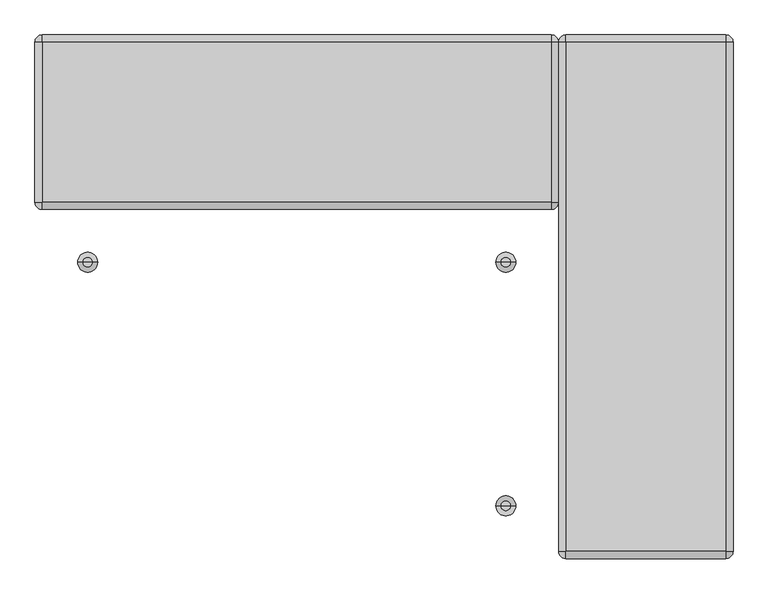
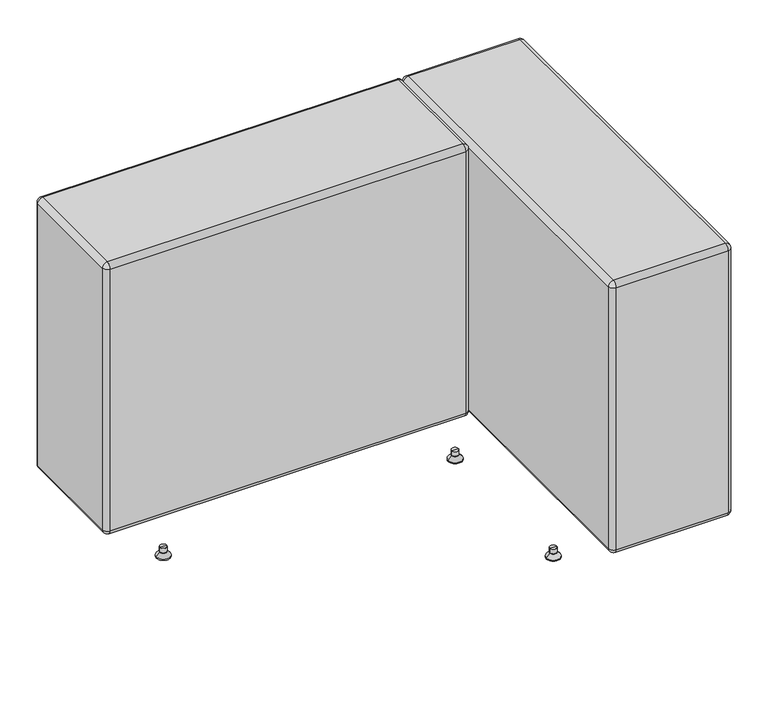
"""IFC4 building model written with IfcOpenShell, lengths in millimetres: furniture geometry, KFI Studios - Conversa : 24”x36” Seat - Left Corner."""

from ifc_helpers import new_model, si_unit, point, frame, origin, place, context, project, spatial, polyline, circle_curve, ellipse_curve, trimmed, source, transform, mapped, element, save
from ifc_brep_helpers import plane_surface, cylinder_surface, revolved_surface, advanced_brep


def furniture_b39dd79e(model_context):
    return source(origin(), model_context, "Body", "AdvancedBrep", [
        advanced_brep(
        [(678.1895895, 517.525, 25.4), (669.925, 517.525, 25.4), (661.6604105, 517.525, 25.4), (678.1895895, 517.525, 14.2843611), (661.6604105, 517.525, 14.2843611), (676.5876354, 517.525, 14.2843611), (663.2623646, 517.525, 14.2843611), (676.5876354, 517.525, 12.7064551), (663.2623646, 517.525, 12.7064551), (678.1890671, 517.525, 12.7064551), (661.6609329, 517.525, 12.7064551), (687.3741215, 517.525, 3.1950529), (652.4758785, 517.525, 3.1950529), (687.3741215, 517.525, 0.0), (652.4758785, 517.525, 0.0), (669.925, 517.525, 0.0)],
        [
            (0, 1),
            (1, 2),
            (2, 0, circle_curve(frame((669.925, 517.525, 25.4), z_axis=(0.0, 0.0, 1.0), x_axis=(-1.0, 0.0, 0.0)), 8.2645895)),
            (0, 2, circle_curve(frame((669.925, 517.525, 25.4), z_axis=(0.0, 0.0, 1.0), x_axis=(-1.0, 0.0, 0.0)), 8.2645895)),
            (3, 0),
            (2, 4),
            (4, 3, circle_curve(frame((669.925, 517.525, 14.2843611), z_axis=(0.0, 0.0, 1.0), x_axis=(-1.0, 0.0, 0.0)), 8.2645895)),
            (3, 4, circle_curve(frame((669.925, 517.525, 14.2843611), z_axis=(0.0, 0.0, 1.0), x_axis=(-1.0, 0.0, 0.0)), 8.2645895)),
            (5, 3),
            (4, 6),
            (6, 5, circle_curve(frame((669.925, 517.525, 14.2843611), z_axis=(0.0, 0.0, 1.0), x_axis=(-1.0, 0.0, 0.0)), 6.6626354)),
            (5, 6, circle_curve(frame((669.925, 517.525, 14.2843611), z_axis=(0.0, 0.0, 1.0), x_axis=(-1.0, 0.0, 0.0)), 6.6626354)),
            (7, 5),
            (6, 8),
            (8, 7, circle_curve(frame((669.925, 517.525, 12.7064551), z_axis=(0.0, 0.0, 1.0), x_axis=(-1.0, 0.0, 0.0)), 6.6626354)),
            (7, 8, circle_curve(frame((669.925, 517.525, 12.7064551), z_axis=(0.0, 0.0, 1.0), x_axis=(-1.0, 0.0, 0.0)), 6.6626354)),
            (9, 7),
            (8, 10),
            (10, 9, circle_curve(frame((669.925, 517.525, 12.7064551), z_axis=(0.0, 0.0, 1.0), x_axis=(-1.0, 0.0, 0.0)), 8.2640671)),
            (9, 10, circle_curve(frame((669.925, 517.525, 12.7064551), z_axis=(0.0, 0.0, 1.0), x_axis=(-1.0, 0.0, 0.0)), 8.2640671)),
            (11, 9),
            (10, 12),
            (12, 11, circle_curve(frame((669.925, 517.525, 3.1950529), z_axis=(0.0, 0.0, 1.0), x_axis=(-1.0, 0.0, 0.0)), 17.4491215)),
            (11, 12, circle_curve(frame((669.925, 517.525, 3.1950529), z_axis=(0.0, 0.0, 1.0), x_axis=(-1.0, 0.0, 0.0)), 17.4491215)),
            (13, 11),
            (12, 14),
            (14, 13, circle_curve(frame((669.925, 517.525, 0.0), z_axis=(0.0, 0.0, 1.0), x_axis=(-1.0, 0.0, 0.0)), 17.4491215)),
            (13, 14, circle_curve(frame((669.925, 517.525, 0.0), z_axis=(0.0, 0.0, 1.0), x_axis=(-1.0, 0.0, 0.0)), 17.4491215)),
            (15, 13),
            (14, 15),
        ],
        [
            plane_surface(frame((669.925, 517.525, 25.4), z_axis=(0.0, 0.0, 1.0), x_axis=(-1.0, 0.0, 0.0))),
            cylinder_surface(frame((669.925, 517.525, 33.820929), z_axis=(0.0, 0.0, -1.0), x_axis=(-1.0, 0.0, 0.0)), 8.2645895),
            plane_surface(frame((669.925, 517.525, 14.2843611), z_axis=(0.0, 0.0, -1.0), x_axis=(-1.0, 0.0, 0.0))),
            cylinder_surface(frame((669.925, 517.525, 33.820929), z_axis=(0.0, 0.0, -1.0), x_axis=(-1.0, 0.0, 0.0)), 6.6626354),
            plane_surface(frame((669.925, 517.525, 12.7064551), z_axis=(0.0, 0.0, 1.0), x_axis=(-1.0, 0.0, 0.0))),
            revolved_surface(polyline([(661.6609329, 517.525, 12.7064551), (652.4758785, 517.525, 3.1950529)]), (669.925, 517.525, 33.820929), (0.0, 0.0, -1.0)),
            cylinder_surface(frame((669.925, 517.525, 33.820929), z_axis=(0.0, 0.0, -1.0), x_axis=(-1.0, 0.0, 0.0)), 17.4491215),
            plane_surface(frame((669.925, 517.525, 0.0), z_axis=(0.0, 0.0, -1.0), x_axis=(-1.0, 0.0, 0.0))),
        ],
        [
            (0, [[1, 2, 3]]),
            (0, [[-2, -1, 4]]),
            (1, [[5, -3, 6, 7]]),
            (1, [[-6, -4, -5, 8]]),
            (2, [[9, -7, 10, 11]]),
            (2, [[-10, -8, -9, 12]]),
            (3, [[13, -11, 14, 15]]),
            (3, [[-14, -12, -13, 16]]),
            (4, [[17, -15, 18, 19]]),
            (4, [[-18, -16, -17, 20]]),
            (5, [[21, -19, 22, 23]]),
            (5, [[-22, -20, -21, 24]]),
            (6, [[25, -23, 26, 27]]),
            (6, [[-26, -24, -25, 28]]),
            (7, [[29, -27, 30]]),
            (7, [[-30, -28, -29]]),
        ],
    ),
        advanced_brep(
        [(678.1895895, -212.725, 25.4), (661.6604105, -212.725, 25.4), (669.925, -212.725, 25.4), (678.1895895, -212.725, 14.2843611), (661.6604105, -212.725, 14.2843611), (676.5876354, -212.725, 14.2843611), (663.2623646, -212.725, 14.2843611), (676.5876354, -212.725, 12.7064551), (663.2623646, -212.725, 12.7064551), (678.1890671, -212.725, 12.7064551), (661.6609329, -212.725, 12.7064551), (687.3741215, -212.725, 3.1950529), (652.4758785, -212.725, 3.1950529), (687.3741215, -212.725, 0.0), (652.4758785, -212.725, 0.0), (669.925, -212.725, 0.0)],
        [
            (0, 1, circle_curve(frame((669.925, -212.725, 25.4), z_axis=(0.0, 0.0, 1.0), x_axis=(-1.0, 0.0, 0.0)), 8.2645895)),
            (1, 2),
            (2, 0),
            (1, 0, circle_curve(frame((669.925, -212.725, 25.4), z_axis=(0.0, 0.0, 1.0), x_axis=(-1.0, 0.0, 0.0)), 8.2645895)),
            (3, 4, circle_curve(frame((669.925, -212.725, 14.2843611), z_axis=(0.0, 0.0, 1.0), x_axis=(-1.0, 0.0, 0.0)), 8.2645895)),
            (4, 1),
            (0, 3),
            (4, 3, circle_curve(frame((669.925, -212.725, 14.2843611), z_axis=(0.0, 0.0, 1.0), x_axis=(-1.0, 0.0, 0.0)), 8.2645895)),
            (5, 6, circle_curve(frame((669.925, -212.725, 14.2843611), z_axis=(0.0, 0.0, 1.0), x_axis=(-1.0, 0.0, 0.0)), 6.6626354)),
            (6, 4),
            (3, 5),
            (6, 5, circle_curve(frame((669.925, -212.725, 14.2843611), z_axis=(0.0, 0.0, 1.0), x_axis=(-1.0, 0.0, 0.0)), 6.6626354)),
            (7, 8, circle_curve(frame((669.925, -212.725, 12.7064551), z_axis=(0.0, 0.0, 1.0), x_axis=(-1.0, 0.0, 0.0)), 6.6626354)),
            (8, 6),
            (5, 7),
            (8, 7, circle_curve(frame((669.925, -212.725, 12.7064551), z_axis=(0.0, 0.0, 1.0), x_axis=(-1.0, 0.0, 0.0)), 6.6626354)),
            (9, 10, circle_curve(frame((669.925, -212.725, 12.7064551), z_axis=(0.0, 0.0, 1.0), x_axis=(-1.0, 0.0, 0.0)), 8.2640671)),
            (10, 8),
            (7, 9),
            (10, 9, circle_curve(frame((669.925, -212.725, 12.7064551), z_axis=(0.0, 0.0, 1.0), x_axis=(-1.0, 0.0, 0.0)), 8.2640671)),
            (11, 12, circle_curve(frame((669.925, -212.725, 3.1950529), z_axis=(0.0, 0.0, 1.0), x_axis=(-1.0, 0.0, 0.0)), 17.4491215)),
            (12, 10),
            (9, 11),
            (12, 11, circle_curve(frame((669.925, -212.725, 3.1950529), z_axis=(0.0, 0.0, 1.0), x_axis=(-1.0, 0.0, 0.0)), 17.4491215)),
            (13, 14, circle_curve(frame((669.925, -212.725, 0.0), z_axis=(0.0, 0.0, 1.0), x_axis=(-1.0, 0.0, 0.0)), 17.4491215)),
            (14, 12),
            (11, 13),
            (14, 13, circle_curve(frame((669.925, -212.725, 0.0), z_axis=(0.0, 0.0, 1.0), x_axis=(-1.0, 0.0, 0.0)), 17.4491215)),
            (15, 14),
            (13, 15),
        ],
        [
            plane_surface(frame((669.925, -212.725, 25.4), z_axis=(0.0, 0.0, 1.0), x_axis=(-1.0, 0.0, 0.0))),
            cylinder_surface(frame((669.925, -212.725, 33.820929), z_axis=(0.0, 0.0, -1.0), x_axis=(-1.0, 0.0, 0.0)), 8.2645895),
            plane_surface(frame((669.925, -212.725, 14.2843611), z_axis=(0.0, 0.0, -1.0), x_axis=(-1.0, 0.0, 0.0))),
            cylinder_surface(frame((669.925, -212.725, 33.820929), z_axis=(0.0, 0.0, -1.0), x_axis=(-1.0, 0.0, 0.0)), 6.6626354),
            plane_surface(frame((669.925, -212.725, 12.7064551), z_axis=(0.0, 0.0, 1.0), x_axis=(-1.0, 0.0, 0.0))),
            revolved_surface(polyline([(661.6609329, -212.725, 12.7064551), (652.4758785, -212.725, 3.1950529)]), (669.925, -212.725, 33.820929), (0.0, 0.0, -1.0)),
            cylinder_surface(frame((669.925, -212.725, 33.820929), z_axis=(0.0, 0.0, -1.0), x_axis=(-1.0, 0.0, 0.0)), 17.4491215),
            plane_surface(frame((669.925, -212.725, 0.0), z_axis=(0.0, 0.0, -1.0), x_axis=(-1.0, 0.0, 0.0))),
        ],
        [
            (0, [[1, 2, 3]]),
            (0, [[4, -3, -2]]),
            (1, [[5, 6, -1, 7]]),
            (1, [[8, -7, -4, -6]]),
            (2, [[9, 10, -5, 11]]),
            (2, [[12, -11, -8, -10]]),
            (3, [[13, 14, -9, 15]]),
            (3, [[16, -15, -12, -14]]),
            (4, [[17, 18, -13, 19]]),
            (4, [[20, -19, -16, -18]]),
            (5, [[21, 22, -17, 23]]),
            (5, [[24, -23, -20, -22]]),
            (6, [[25, 26, -21, 27]]),
            (6, [[28, -27, -24, -26]]),
            (7, [[29, -25, 30]]),
            (7, [[-30, -28, -29]]),
        ],
    ),
        advanced_brep(
        [(457.2, 596.9, 730.25), (457.2, -292.1, 730.25), (469.9, -292.1, 742.95), (469.9, 596.9, 742.95), (457.2, 596.9, 38.1), (457.2, -292.1, 38.1), (469.9, 596.9, 25.4), (469.9, -292.1, 25.4), (469.9, -304.8, 730.25), (749.3, -304.8, 730.25), (749.3, -292.1, 742.95), (469.9, -304.8, 38.1), (749.3, -304.8, 38.1), (749.3, -292.1, 25.4), (749.3, 596.9, 742.95), (749.3, 596.9, 25.4), (749.3, 609.6, 730.25), (469.9, 609.6, 730.25), (749.3, 609.6, 38.1), (469.9, 609.6, 38.1), (762.0, -292.1, 730.25), (762.0, 596.9, 730.25), (762.0, -292.1, 38.1), (762.0, 596.9, 38.1)],
        [
            (0, 1),
            (1, 2, circle_curve(frame((469.9, -292.1, 730.25), z_axis=(0.0, 1.0, 0.0), x_axis=(-1.0, 0.0, 0.0)), 12.7)),
            (2, 3),
            (3, 0, circle_curve(frame((469.9, 596.9, 730.25), z_axis=(0.0, -1.0, 0.0), x_axis=(-1.0, 0.0, 0.0)), 12.7)),
            (0, 4),
            (4, 5),
            (5, 1),
            (4, 6, circle_curve(frame((469.9, 596.9, 38.1), z_axis=(0.0, -1.0, 0.0), x_axis=(-1.0, 0.0, 0.0)), 12.7)),
            (6, 7),
            (7, 5, circle_curve(frame((469.9, -292.1, 38.1), z_axis=(0.0, 1.0, 0.0), x_axis=(-1.0, 0.0, 0.0)), 12.7)),
            (8, 9),
            (9, 10, circle_curve(frame((749.3, -292.1, 730.25), z_axis=(-1.0, 0.0, 0.0), x_axis=(0.0, 1.0, 0.0)), 12.7)),
            (10, 2),
            (2, 8, circle_curve(frame((469.9, -292.1, 730.25), z_axis=(1.0, 0.0, 0.0), x_axis=(0.0, 1.0, 0.0)), 12.7)),
            (8, 11),
            (11, 12),
            (12, 9),
            (11, 7, circle_curve(frame((469.9, -292.1, 38.1), z_axis=(1.0, 0.0, 0.0), x_axis=(0.0, 1.0, 0.0)), 12.7)),
            (7, 13),
            (13, 12, circle_curve(frame((749.3, -292.1, 38.1), z_axis=(-1.0, 0.0, 0.0), x_axis=(0.0, 1.0, 0.0)), 12.7)),
            (10, 14),
            (14, 3),
            (6, 15),
            (15, 13),
            (16, 17),
            (17, 3, circle_curve(frame((469.9, 596.9, 730.25), z_axis=(1.0, 0.0, 0.0), x_axis=(0.0, 1.0, 0.0)), 12.7)),
            (14, 16, circle_curve(frame((749.3, 596.9, 730.25), z_axis=(-1.0, 0.0, 0.0), x_axis=(0.0, 1.0, 0.0)), 12.7)),
            (16, 18),
            (18, 19),
            (19, 17),
            (18, 15, circle_curve(frame((749.3, 596.9, 38.1), z_axis=(-1.0, 0.0, 0.0), x_axis=(0.0, 1.0, 0.0)), 12.7)),
            (6, 19, circle_curve(frame((469.9, 596.9, 38.1), z_axis=(1.0, 0.0, 0.0), x_axis=(0.0, 1.0, 0.0)), 12.7)),
            (20, 21),
            (21, 14, circle_curve(frame((749.3, 596.9, 730.25), z_axis=(0.0, -1.0, 0.0), x_axis=(-1.0, 0.0, 0.0)), 12.7)),
            (10, 20, circle_curve(frame((749.3, -292.1, 730.25), z_axis=(0.0, 1.0, 0.0), x_axis=(-1.0, 0.0, 0.0)), 12.7)),
            (20, 22),
            (22, 23),
            (23, 21),
            (22, 13, circle_curve(frame((749.3, -292.1, 38.1), z_axis=(0.0, 1.0, 0.0), x_axis=(-1.0, 0.0, 0.0)), 12.7)),
            (15, 23, circle_curve(frame((749.3, 596.9, 38.1), z_axis=(0.0, -1.0, 0.0), x_axis=(-1.0, 0.0, 0.0)), 12.7)),
            (19, 4, circle_curve(frame((469.9, 596.9, 38.1), z_axis=(0.0, 0.0, 1.0), x_axis=(-1.0, 0.0, 0.0)), 12.7)),
            (0, 17, circle_curve(frame((469.9, 596.9, 730.25), z_axis=(0.0, 0.0, -1.0), x_axis=(-1.0, 0.0, 0.0)), 12.7)),
            (8, 1, circle_curve(frame((469.9, -292.1, 730.25), z_axis=(0.0, 0.0, -1.0), x_axis=(-1.0, 0.0, 0.0)), 12.7)),
            (5, 11, circle_curve(frame((469.9, -292.1, 38.1), z_axis=(0.0, 0.0, 1.0), x_axis=(-1.0, 0.0, 0.0)), 12.7)),
            (12, 22, circle_curve(frame((749.3, -292.1, 38.1), z_axis=(0.0, 0.0, 1.0), x_axis=(1.0, 0.0, 0.0)), 12.7)),
            (20, 9, circle_curve(frame((749.3, -292.1, 730.25), z_axis=(0.0, 0.0, -1.0), x_axis=(1.0, 0.0, 0.0)), 12.7)),
            (16, 21, circle_curve(frame((749.3, 596.9, 730.25), z_axis=(0.0, 0.0, -1.0), x_axis=(1.0, 0.0, 0.0)), 12.7)),
            (23, 18, circle_curve(frame((749.3, 596.9, 38.1), z_axis=(0.0, 0.0, 1.0), x_axis=(1.0, 0.0, 0.0)), 12.7)),
        ],
        [
            cylinder_surface(frame((469.9, -292.1, 730.25), z_axis=(0.0, -1.0, 0.0), x_axis=(-1.0, 0.0, 0.0)), 12.7),
            plane_surface(frame((457.2, -292.1, 730.25), z_axis=(-1.0, 0.0, 0.0), x_axis=(0.0, 1.0, 0.0))),
            cylinder_surface(frame((469.9, -292.1, 38.1), z_axis=(0.0, -1.0, 0.0), x_axis=(-1.0, 0.0, 0.0)), 12.7),
            cylinder_surface(frame((469.9, -292.1, 730.25), z_axis=(-1.0, 0.0, 0.0), x_axis=(0.0, 1.0, 0.0)), 12.7),
            plane_surface(frame((469.9, -304.8, 38.1), z_axis=(0.0, -1.0, 0.0), x_axis=(1.0, 0.0, 0.0))),
            cylinder_surface(frame((469.9, -292.1, 38.1), z_axis=(-1.0, 0.0, 0.0), x_axis=(0.0, 1.0, 0.0)), 12.7),
            plane_surface(frame((469.9, 596.9, 742.95), z_axis=(0.0, 0.0, 1.0), x_axis=(-1.0, 0.0, 0.0))),
            plane_surface(frame((469.9, 596.9, 25.4), z_axis=(0.0, 0.0, -1.0), x_axis=(1.0, 0.0, 0.0))),
            cylinder_surface(frame((469.9, 596.9, 730.25), z_axis=(-1.0, 0.0, 0.0), x_axis=(0.0, 1.0, 0.0)), 12.7),
            plane_surface(frame((469.9, 609.6, 730.25), z_axis=(0.0, 1.0, 0.0), x_axis=(1.0, 0.0, 0.0))),
            cylinder_surface(frame((469.9, 596.9, 38.1), z_axis=(-1.0, 0.0, 0.0), x_axis=(0.0, 1.0, 0.0)), 12.7),
            cylinder_surface(frame((749.3, -292.1, 730.25), z_axis=(0.0, -1.0, 0.0), x_axis=(-1.0, 0.0, 0.0)), 12.7),
            plane_surface(frame((762.0, -292.1, 38.1), z_axis=(1.0, 0.0, 0.0), x_axis=(0.0, 1.0, 0.0))),
            cylinder_surface(frame((749.3, -292.1, 38.1), z_axis=(0.0, -1.0, 0.0), x_axis=(-1.0, 0.0, 0.0)), 12.7),
            cylinder_surface(frame((469.9, 596.9, 742.95), z_axis=(0.0, 0.0, 1.0), x_axis=(-1.0, 0.0, 0.0)), 12.7),
            revolved_surface(trimmed(ellipse_curve(frame((469.9, 596.9, 38.1), z_axis=(0.0, 1.0, 0.0), x_axis=(0.0, 0.0, 1.0)), 12.7, 12.7), [point((469.9, 596.9, 25.4))], [point((457.2, 596.9, 38.1))], True, "CARTESIAN"), (469.9, 596.9, 742.95), (0.0, 0.0, 1.0)),
            revolved_surface(trimmed(ellipse_curve(frame((469.9, 596.9, 730.25), z_axis=(0.0, 1.0, 0.0), x_axis=(0.0, 0.0, 1.0)), 12.7, 12.7), [point((457.2, 596.9, 730.25))], [point((469.9, 596.9, 742.95))], True, "CARTESIAN"), (469.9, 596.9, 742.95), (0.0, 0.0, 1.0)),
            cylinder_surface(frame((469.9, -292.1, 592.6689642), z_axis=(0.0, 0.0, -1.0), x_axis=(-1.0, 0.0, 0.0)), 12.7),
            revolved_surface(trimmed(ellipse_curve(frame((469.9, -292.1, 730.25), z_axis=(0.0, -1.0, 0.0), x_axis=(1.0, 0.0, 0.0)), 12.7, 12.7), [point((469.9, -292.1, 742.95))], [point((457.2, -292.1, 730.25))], True, "CARTESIAN"), (469.9, -292.1, 592.6689642), (0.0, 0.0, -1.0)),
            revolved_surface(trimmed(ellipse_curve(frame((469.9, -292.1, 38.1), z_axis=(0.0, -1.0, 0.0), x_axis=(1.0, 0.0, 0.0)), 12.7, 12.7), [point((457.2, -292.1, 38.1))], [point((469.9, -292.1, 25.4))], True, "CARTESIAN"), (469.9, -292.1, 592.6689642), (0.0, 0.0, -1.0)),
            cylinder_surface(frame((749.3, -292.1, 742.95), z_axis=(0.0, 0.0, 1.0), x_axis=(1.0, 0.0, 0.0)), 12.7),
            revolved_surface(trimmed(ellipse_curve(frame((749.3, -292.1, 38.1), z_axis=(0.0, -1.0, 0.0), x_axis=(1.0, 0.0, 0.0)), 12.7, 12.7), [point((749.3, -292.1, 25.4))], [point((762.0, -292.1, 38.1))], True, "CARTESIAN"), (749.3, -292.1, 742.95), (0.0, 0.0, 1.0)),
            revolved_surface(trimmed(ellipse_curve(frame((749.3, -292.1, 730.25), z_axis=(0.0, -1.0, 0.0), x_axis=(1.0, 0.0, 0.0)), 12.7, 12.7), [point((762.0, -292.1, 730.25))], [point((749.3, -292.1, 742.95))], True, "CARTESIAN"), (749.3, -292.1, 742.95), (0.0, 0.0, 1.0)),
            cylinder_surface(frame((749.3, 596.9, 592.6689642), z_axis=(0.0, 0.0, -1.0), x_axis=(1.0, 0.0, 0.0)), 12.7),
            revolved_surface(trimmed(ellipse_curve(frame((749.3, 596.9, 730.25), z_axis=(0.0, 1.0, 0.0), x_axis=(0.0, 0.0, 1.0)), 12.7, 12.7), [point((749.3, 596.9, 742.95))], [point((762.0, 596.9, 730.25))], True, "CARTESIAN"), (749.3, 596.9, 592.6689642), (0.0, 0.0, -1.0)),
            revolved_surface(trimmed(ellipse_curve(frame((749.3, 596.9, 38.1), z_axis=(0.0, 1.0, 0.0), x_axis=(0.0, 0.0, 1.0)), 12.7, 12.7), [point((762.0, 596.9, 38.1))], [point((749.3, 596.9, 25.4))], True, "CARTESIAN"), (749.3, 596.9, 592.6689642), (0.0, 0.0, -1.0)),
        ],
        [
            (0, [[1, 2, 3, 4]]),
            (1, [[-1, 5, 6, 7]]),
            (2, [[-6, 8, 9, 10]]),
            (3, [[11, 12, 13, 14]]),
            (4, [[-11, 15, 16, 17]]),
            (5, [[-16, 18, 19, 20]]),
            (6, [[-3, -13, 21, 22]]),
            (7, [[-9, 23, 24, -19]]),
            (8, [[25, 26, -22, 27]]),
            (9, [[-25, 28, 29, 30]]),
            (10, [[-29, 31, -23, 32]]),
            (11, [[33, 34, -21, 35]]),
            (12, [[-33, 36, 37, 38]]),
            (13, [[-37, 39, -24, 40]]),
            (14, [[41, -5, 42, -30]]),
            (15, [[-41, -32, -8]]),
            (16, [[-42, -4, -26]]),
            (17, [[43, -7, 44, -15]]),
            (18, [[-43, -14, -2]]),
            (19, [[-44, -10, -18]]),
            (20, [[45, -36, 46, -17]]),
            (21, [[-45, -20, -39]]),
            (22, [[-46, -35, -12]]),
            (23, [[47, -38, 48, -28]]),
            (24, [[-47, -27, -34]]),
            (25, [[-48, -40, -31]]),
        ],
    ),
        advanced_brep(
        [(373.3895895, 517.525, 25.4), (365.125, 517.525, 25.4), (356.8604105, 517.525, 25.4), (373.3895895, 517.525, 14.2843611), (356.8604105, 517.525, 14.2843611), (371.7876354, 517.525, 14.2843611), (358.4623646, 517.525, 14.2843611), (371.7876354, 517.525, 12.7064551), (358.4623646, 517.525, 12.7064551), (373.3890671, 517.525, 12.7064551), (356.8609329, 517.525, 12.7064551), (382.5741215, 517.525, 3.1950529), (347.6758785, 517.525, 3.1950529), (382.5741215, 517.525, 0.0), (347.6758785, 517.525, 0.0), (365.125, 517.525, 0.0)],
        [
            (0, 1),
            (1, 2),
            (2, 0, circle_curve(frame((365.125, 517.525, 25.4), z_axis=(0.0, 0.0, 1.0), x_axis=(-1.0, 0.0, 0.0)), 8.2645895)),
            (0, 2, circle_curve(frame((365.125, 517.525, 25.4), z_axis=(0.0, 0.0, 1.0), x_axis=(-1.0, 0.0, 0.0)), 8.2645895)),
            (3, 0),
            (2, 4),
            (4, 3, circle_curve(frame((365.125, 517.525, 14.2843611), z_axis=(0.0, 0.0, 1.0), x_axis=(-1.0, 0.0, 0.0)), 8.2645895)),
            (3, 4, circle_curve(frame((365.125, 517.525, 14.2843611), z_axis=(0.0, 0.0, 1.0), x_axis=(-1.0, 0.0, 0.0)), 8.2645895)),
            (5, 3),
            (4, 6),
            (6, 5, circle_curve(frame((365.125, 517.525, 14.2843611), z_axis=(0.0, 0.0, 1.0), x_axis=(-1.0, 0.0, 0.0)), 6.6626354)),
            (5, 6, circle_curve(frame((365.125, 517.525, 14.2843611), z_axis=(0.0, 0.0, 1.0), x_axis=(-1.0, 0.0, 0.0)), 6.6626354)),
            (7, 5),
            (6, 8),
            (8, 7, circle_curve(frame((365.125, 517.525, 12.7064551), z_axis=(0.0, 0.0, 1.0), x_axis=(-1.0, 0.0, 0.0)), 6.6626354)),
            (7, 8, circle_curve(frame((365.125, 517.525, 12.7064551), z_axis=(0.0, 0.0, 1.0), x_axis=(-1.0, 0.0, 0.0)), 6.6626354)),
            (9, 7),
            (8, 10),
            (10, 9, circle_curve(frame((365.125, 517.525, 12.7064551), z_axis=(0.0, 0.0, 1.0), x_axis=(-1.0, 0.0, 0.0)), 8.2640671)),
            (9, 10, circle_curve(frame((365.125, 517.525, 12.7064551), z_axis=(0.0, 0.0, 1.0), x_axis=(-1.0, 0.0, 0.0)), 8.2640671)),
            (11, 9),
            (10, 12),
            (12, 11, circle_curve(frame((365.125, 517.525, 3.1950529), z_axis=(0.0, 0.0, 1.0), x_axis=(-1.0, 0.0, 0.0)), 17.4491215)),
            (11, 12, circle_curve(frame((365.125, 517.525, 3.1950529), z_axis=(0.0, 0.0, 1.0), x_axis=(-1.0, 0.0, 0.0)), 17.4491215)),
            (13, 11),
            (12, 14),
            (14, 13, circle_curve(frame((365.125, 517.525, 0.0), z_axis=(0.0, 0.0, 1.0), x_axis=(-1.0, 0.0, 0.0)), 17.4491215)),
            (13, 14, circle_curve(frame((365.125, 517.525, 0.0), z_axis=(0.0, 0.0, 1.0), x_axis=(-1.0, 0.0, 0.0)), 17.4491215)),
            (15, 13),
            (14, 15),
        ],
        [
            plane_surface(frame((365.125, 517.525, 25.4), z_axis=(0.0, 0.0, 1.0), x_axis=(-1.0, 0.0, 0.0))),
            cylinder_surface(frame((365.125, 517.525, 33.820929), z_axis=(0.0, 0.0, -1.0), x_axis=(-1.0, 0.0, 0.0)), 8.2645895),
            plane_surface(frame((365.125, 517.525, 14.2843611), z_axis=(0.0, 0.0, -1.0), x_axis=(-1.0, 0.0, 0.0))),
            cylinder_surface(frame((365.125, 517.525, 33.820929), z_axis=(0.0, 0.0, -1.0), x_axis=(-1.0, 0.0, 0.0)), 6.6626354),
            plane_surface(frame((365.125, 517.525, 12.7064551), z_axis=(0.0, 0.0, 1.0), x_axis=(-1.0, 0.0, 0.0))),
            revolved_surface(polyline([(356.8609329, 517.525, 12.7064551), (347.6758785, 517.525, 3.1950529)]), (365.125, 517.525, 33.820929), (0.0, 0.0, -1.0)),
            cylinder_surface(frame((365.125, 517.525, 33.820929), z_axis=(0.0, 0.0, -1.0), x_axis=(-1.0, 0.0, 0.0)), 17.4491215),
            plane_surface(frame((365.125, 517.525, 0.0), z_axis=(0.0, 0.0, -1.0), x_axis=(-1.0, 0.0, 0.0))),
        ],
        [
            (0, [[1, 2, 3]]),
            (0, [[-2, -1, 4]]),
            (1, [[5, -3, 6, 7]]),
            (1, [[-6, -4, -5, 8]]),
            (2, [[9, -7, 10, 11]]),
            (2, [[-10, -8, -9, 12]]),
            (3, [[13, -11, 14, 15]]),
            (3, [[-14, -12, -13, 16]]),
            (4, [[17, -15, 18, 19]]),
            (4, [[-18, -16, -17, 20]]),
            (5, [[21, -19, 22, 23]]),
            (5, [[-22, -20, -21, 24]]),
            (6, [[25, -23, 26, 27]]),
            (6, [[-26, -24, -25, 28]]),
            (7, [[29, -27, 30]]),
            (7, [[-30, -28, -29]]),
        ],
    ),
        advanced_brep(
        [(-356.8604105, 517.525, 25.4), (-365.125, 517.525, 25.4), (-373.3895895, 517.525, 25.4), (-356.8604105, 517.525, 14.2843611), (-373.3895895, 517.525, 14.2843611), (-358.4623646, 517.525, 14.2843611), (-371.7876354, 517.525, 14.2843611), (-358.4623646, 517.525, 12.7064551), (-371.7876354, 517.525, 12.7064551), (-356.8609329, 517.525, 12.7064551), (-373.3890671, 517.525, 12.7064551), (-347.6758785, 517.525, 3.1950529), (-382.5741215, 517.525, 3.1950529), (-347.6758785, 517.525, 0.0), (-382.5741215, 517.525, 0.0), (-365.125, 517.525, 0.0)],
        [
            (0, 1),
            (1, 2),
            (2, 0, circle_curve(frame((-365.125, 517.525, 25.4), z_axis=(0.0, 0.0, 1.0), x_axis=(-1.0, 0.0, 0.0)), 8.2645895)),
            (0, 2, circle_curve(frame((-365.125, 517.525, 25.4), z_axis=(0.0, 0.0, 1.0), x_axis=(-1.0, 0.0, 0.0)), 8.2645895)),
            (3, 0),
            (2, 4),
            (4, 3, circle_curve(frame((-365.125, 517.525, 14.2843611), z_axis=(0.0, 0.0, 1.0), x_axis=(-1.0, 0.0, 0.0)), 8.2645895)),
            (3, 4, circle_curve(frame((-365.125, 517.525, 14.2843611), z_axis=(0.0, 0.0, 1.0), x_axis=(-1.0, 0.0, 0.0)), 8.2645895)),
            (5, 3),
            (4, 6),
            (6, 5, circle_curve(frame((-365.125, 517.525, 14.2843611), z_axis=(0.0, 0.0, 1.0), x_axis=(-1.0, 0.0, 0.0)), 6.6626354)),
            (5, 6, circle_curve(frame((-365.125, 517.525, 14.2843611), z_axis=(0.0, 0.0, 1.0), x_axis=(-1.0, 0.0, 0.0)), 6.6626354)),
            (7, 5),
            (6, 8),
            (8, 7, circle_curve(frame((-365.125, 517.525, 12.7064551), z_axis=(0.0, 0.0, 1.0), x_axis=(-1.0, 0.0, 0.0)), 6.6626354)),
            (7, 8, circle_curve(frame((-365.125, 517.525, 12.7064551), z_axis=(0.0, 0.0, 1.0), x_axis=(-1.0, 0.0, 0.0)), 6.6626354)),
            (9, 7),
            (8, 10),
            (10, 9, circle_curve(frame((-365.125, 517.525, 12.7064551), z_axis=(0.0, 0.0, 1.0), x_axis=(-1.0, 0.0, 0.0)), 8.2640671)),
            (9, 10, circle_curve(frame((-365.125, 517.525, 12.7064551), z_axis=(0.0, 0.0, 1.0), x_axis=(-1.0, 0.0, 0.0)), 8.2640671)),
            (11, 9),
            (10, 12),
            (12, 11, circle_curve(frame((-365.125, 517.525, 3.1950529), z_axis=(0.0, 0.0, 1.0), x_axis=(-1.0, 0.0, 0.0)), 17.4491215)),
            (11, 12, circle_curve(frame((-365.125, 517.525, 3.1950529), z_axis=(0.0, 0.0, 1.0), x_axis=(-1.0, 0.0, 0.0)), 17.4491215)),
            (13, 11),
            (12, 14),
            (14, 13, circle_curve(frame((-365.125, 517.525, 0.0), z_axis=(0.0, 0.0, 1.0), x_axis=(-1.0, 0.0, 0.0)), 17.4491215)),
            (13, 14, circle_curve(frame((-365.125, 517.525, 0.0), z_axis=(0.0, 0.0, 1.0), x_axis=(-1.0, 0.0, 0.0)), 17.4491215)),
            (15, 13),
            (14, 15),
        ],
        [
            plane_surface(frame((-365.125, 517.525, 25.4), z_axis=(0.0, 0.0, 1.0), x_axis=(-1.0, 0.0, 0.0))),
            cylinder_surface(frame((-365.125, 517.525, 33.820929), z_axis=(0.0, 0.0, -1.0), x_axis=(-1.0, 0.0, 0.0)), 8.2645895),
            plane_surface(frame((-365.125, 517.525, 14.2843611), z_axis=(0.0, 0.0, -1.0), x_axis=(-1.0, 0.0, 0.0))),
            cylinder_surface(frame((-365.125, 517.525, 33.820929), z_axis=(0.0, 0.0, -1.0), x_axis=(-1.0, 0.0, 0.0)), 6.6626354),
            plane_surface(frame((-365.125, 517.525, 12.7064551), z_axis=(0.0, 0.0, 1.0), x_axis=(-1.0, 0.0, 0.0))),
            revolved_surface(polyline([(-373.3890671, 517.525, 12.7064551), (-382.5741215, 517.525, 3.1950529)]), (-365.125, 517.525, 33.820929), (0.0, 0.0, -1.0)),
            cylinder_surface(frame((-365.125, 517.525, 33.820929), z_axis=(0.0, 0.0, -1.0), x_axis=(-1.0, 0.0, 0.0)), 17.4491215),
            plane_surface(frame((-365.125, 517.525, 0.0), z_axis=(0.0, 0.0, -1.0), x_axis=(-1.0, 0.0, 0.0))),
        ],
        [
            (0, [[1, 2, 3]]),
            (0, [[-2, -1, 4]]),
            (1, [[5, -3, 6, 7]]),
            (1, [[-6, -4, -5, 8]]),
            (2, [[9, -7, 10, 11]]),
            (2, [[-10, -8, -9, 12]]),
            (3, [[13, -11, 14, 15]]),
            (3, [[-14, -12, -13, 16]]),
            (4, [[17, -15, 18, 19]]),
            (4, [[-18, -16, -17, 20]]),
            (5, [[21, -19, 22, 23]]),
            (5, [[-22, -20, -21, 24]]),
            (6, [[25, -23, 26, 27]]),
            (6, [[-26, -24, -25, 28]]),
            (7, [[29, -27, 30]]),
            (7, [[-30, -28, -29]]),
        ],
    ),
        advanced_brep(
        [(-457.2, 596.9, 730.25), (-457.2, 317.5, 730.25), (-444.5, 317.5, 742.95), (-444.5, 596.9, 742.95), (-457.2, 596.9, 38.1), (-457.2, 317.5, 38.1), (-444.5, 596.9, 25.4), (-444.5, 317.5, 25.4), (-444.5, 304.8, 730.25), (444.5, 304.8, 730.25), (444.5, 317.5, 742.95), (-444.5, 304.8, 38.1), (444.5, 304.8, 38.1), (444.5, 317.5, 25.4), (444.5, 596.9, 742.95), (444.5, 596.9, 25.4), (444.5, 609.6, 730.25), (-444.5, 609.6, 730.25), (444.5, 609.6, 38.1), (-444.5, 609.6, 38.1), (457.2, 317.5, 730.25), (457.2, 596.9, 730.25), (457.2, 317.5, 38.1), (457.2, 596.9, 38.1)],
        [
            (0, 1),
            (1, 2, circle_curve(frame((-444.5, 317.5, 730.25), z_axis=(0.0, 1.0, 0.0), x_axis=(-1.0, 0.0, 0.0)), 12.7)),
            (2, 3),
            (3, 0, circle_curve(frame((-444.5, 596.9, 730.25), z_axis=(0.0, -1.0, 0.0), x_axis=(-1.0, 0.0, 0.0)), 12.7)),
            (0, 4),
            (4, 5),
            (5, 1),
            (4, 6, circle_curve(frame((-444.5, 596.9, 38.1), z_axis=(0.0, -1.0, 0.0), x_axis=(-1.0, 0.0, 0.0)), 12.7)),
            (6, 7),
            (7, 5, circle_curve(frame((-444.5, 317.5, 38.1), z_axis=(0.0, 1.0, 0.0), x_axis=(-1.0, 0.0, 0.0)), 12.7)),
            (8, 9),
            (9, 10, circle_curve(frame((444.5, 317.5, 730.25), z_axis=(-1.0, 0.0, 0.0), x_axis=(0.0, 1.0, 0.0)), 12.7)),
            (10, 2),
            (2, 8, circle_curve(frame((-444.5, 317.5, 730.25), z_axis=(1.0, 0.0, 0.0), x_axis=(0.0, 1.0, 0.0)), 12.7)),
            (8, 11),
            (11, 12),
            (12, 9),
            (11, 7, circle_curve(frame((-444.5, 317.5, 38.1), z_axis=(1.0, 0.0, 0.0), x_axis=(0.0, 1.0, 0.0)), 12.7)),
            (7, 13),
            (13, 12, circle_curve(frame((444.5, 317.5, 38.1), z_axis=(-1.0, 0.0, 0.0), x_axis=(0.0, 1.0, 0.0)), 12.7)),
            (10, 14),
            (14, 3),
            (6, 15),
            (15, 13),
            (16, 17),
            (17, 3, circle_curve(frame((-444.5, 596.9, 730.25), z_axis=(1.0, 0.0, 0.0), x_axis=(0.0, 1.0, 0.0)), 12.7)),
            (14, 16, circle_curve(frame((444.5, 596.9, 730.25), z_axis=(-1.0, 0.0, 0.0), x_axis=(0.0, 1.0, 0.0)), 12.7)),
            (16, 18),
            (18, 19),
            (19, 17),
            (18, 15, circle_curve(frame((444.5, 596.9, 38.1), z_axis=(-1.0, 0.0, 0.0), x_axis=(0.0, 1.0, 0.0)), 12.7)),
            (6, 19, circle_curve(frame((-444.5, 596.9, 38.1), z_axis=(1.0, 0.0, 0.0), x_axis=(0.0, 1.0, 0.0)), 12.7)),
            (20, 21),
            (21, 14, circle_curve(frame((444.5, 596.9, 730.25), z_axis=(0.0, -1.0, 0.0), x_axis=(-1.0, 0.0, 0.0)), 12.7)),
            (10, 20, circle_curve(frame((444.5, 317.5, 730.25), z_axis=(0.0, 1.0, 0.0), x_axis=(-1.0, 0.0, 0.0)), 12.7)),
            (20, 22),
            (22, 23),
            (23, 21),
            (22, 13, circle_curve(frame((444.5, 317.5, 38.1), z_axis=(0.0, 1.0, 0.0), x_axis=(-1.0, 0.0, 0.0)), 12.7)),
            (15, 23, circle_curve(frame((444.5, 596.9, 38.1), z_axis=(0.0, -1.0, 0.0), x_axis=(-1.0, 0.0, 0.0)), 12.7)),
            (19, 4, circle_curve(frame((-444.5, 596.9, 38.1), z_axis=(0.0, 0.0, 1.0), x_axis=(-1.0, 0.0, 0.0)), 12.7)),
            (0, 17, circle_curve(frame((-444.5, 596.9, 730.25), z_axis=(0.0, 0.0, -1.0), x_axis=(-1.0, 0.0, 0.0)), 12.7)),
            (8, 1, circle_curve(frame((-444.5, 317.5, 730.25), z_axis=(0.0, 0.0, -1.0), x_axis=(-1.0, 0.0, 0.0)), 12.7)),
            (5, 11, circle_curve(frame((-444.5, 317.5, 38.1), z_axis=(0.0, 0.0, 1.0), x_axis=(-1.0, 0.0, 0.0)), 12.7)),
            (12, 22, circle_curve(frame((444.5, 317.5, 38.1), z_axis=(0.0, 0.0, 1.0), x_axis=(1.0, 0.0, 0.0)), 12.7)),
            (20, 9, circle_curve(frame((444.5, 317.5, 730.25), z_axis=(0.0, 0.0, -1.0), x_axis=(1.0, 0.0, 0.0)), 12.7)),
            (16, 21, circle_curve(frame((444.5, 596.9, 730.25), z_axis=(0.0, 0.0, -1.0), x_axis=(1.0, 0.0, 0.0)), 12.7)),
            (23, 18, circle_curve(frame((444.5, 596.9, 38.1), z_axis=(0.0, 0.0, 1.0), x_axis=(1.0, 0.0, 0.0)), 12.7)),
        ],
        [
            cylinder_surface(frame((-444.5, 317.5, 730.25), z_axis=(0.0, -1.0, 0.0), x_axis=(-1.0, 0.0, 0.0)), 12.7),
            plane_surface(frame((-457.2, 317.5, 730.25), z_axis=(-1.0, 0.0, 0.0), x_axis=(0.0, 1.0, 0.0))),
            cylinder_surface(frame((-444.5, 317.5, 38.1), z_axis=(0.0, -1.0, 0.0), x_axis=(-1.0, 0.0, 0.0)), 12.7),
            cylinder_surface(frame((-444.5, 317.5, 730.25), z_axis=(-1.0, 0.0, 0.0), x_axis=(0.0, 1.0, 0.0)), 12.7),
            plane_surface(frame((-444.5, 304.8, 38.1), z_axis=(0.0, -1.0, 0.0), x_axis=(1.0, 0.0, 0.0))),
            cylinder_surface(frame((-444.5, 317.5, 38.1), z_axis=(-1.0, 0.0, 0.0), x_axis=(0.0, 1.0, 0.0)), 12.7),
            plane_surface(frame((-444.5, 596.9, 742.95), z_axis=(0.0, 0.0, 1.0), x_axis=(-1.0, 0.0, 0.0))),
            plane_surface(frame((-444.5, 596.9, 25.4), z_axis=(0.0, 0.0, -1.0), x_axis=(1.0, 0.0, 0.0))),
            cylinder_surface(frame((-444.5, 596.9, 730.25), z_axis=(-1.0, 0.0, 0.0), x_axis=(0.0, 1.0, 0.0)), 12.7),
            plane_surface(frame((-444.5, 609.6, 730.25), z_axis=(0.0, 1.0, 0.0), x_axis=(1.0, 0.0, 0.0))),
            cylinder_surface(frame((-444.5, 596.9, 38.1), z_axis=(-1.0, 0.0, 0.0), x_axis=(0.0, 1.0, 0.0)), 12.7),
            cylinder_surface(frame((444.5, 317.5, 730.25), z_axis=(0.0, -1.0, 0.0), x_axis=(-1.0, 0.0, 0.0)), 12.7),
            plane_surface(frame((457.2, 317.5, 38.1), z_axis=(1.0, 0.0, 0.0), x_axis=(0.0, 1.0, 0.0))),
            cylinder_surface(frame((444.5, 317.5, 38.1), z_axis=(0.0, -1.0, 0.0), x_axis=(-1.0, 0.0, 0.0)), 12.7),
            cylinder_surface(frame((-444.5, 596.9, 742.95), z_axis=(0.0, 0.0, 1.0), x_axis=(-1.0, 0.0, 0.0)), 12.7),
            revolved_surface(trimmed(ellipse_curve(frame((-444.5, 596.9, 38.1), z_axis=(0.0, 1.0, 0.0), x_axis=(0.0, 0.0, 1.0)), 12.7, 12.7), [point((-444.5, 596.9, 25.4))], [point((-457.2, 596.9, 38.1))], True, "CARTESIAN"), (-444.5, 596.9, 742.95), (0.0, 0.0, 1.0)),
            revolved_surface(trimmed(ellipse_curve(frame((-444.5, 596.9, 730.25), z_axis=(0.0, 1.0, 0.0), x_axis=(0.0, 0.0, 1.0)), 12.7, 12.7), [point((-457.2, 596.9, 730.25))], [point((-444.5, 596.9, 742.95))], True, "CARTESIAN"), (-444.5, 596.9, 742.95), (0.0, 0.0, 1.0)),
            cylinder_surface(frame((-444.5, 317.5, 592.6689642), z_axis=(0.0, 0.0, -1.0), x_axis=(-1.0, 0.0, 0.0)), 12.7),
            revolved_surface(trimmed(ellipse_curve(frame((-444.5, 317.5, 730.25), z_axis=(0.0, -1.0, 0.0), x_axis=(1.0, 0.0, 0.0)), 12.7, 12.7), [point((-444.5, 317.5, 742.95))], [point((-457.2, 317.5, 730.25))], True, "CARTESIAN"), (-444.5, 317.5, 592.6689642), (0.0, 0.0, -1.0)),
            revolved_surface(trimmed(ellipse_curve(frame((-444.5, 317.5, 38.1), z_axis=(0.0, -1.0, 0.0), x_axis=(1.0, 0.0, 0.0)), 12.7, 12.7), [point((-457.2, 317.5, 38.1))], [point((-444.5, 317.5, 25.4))], True, "CARTESIAN"), (-444.5, 317.5, 592.6689642), (0.0, 0.0, -1.0)),
            cylinder_surface(frame((444.5, 317.5, 742.95), z_axis=(0.0, 0.0, 1.0), x_axis=(1.0, 0.0, 0.0)), 12.7),
            revolved_surface(trimmed(ellipse_curve(frame((444.5, 317.5, 38.1), z_axis=(0.0, -1.0, 0.0), x_axis=(1.0, 0.0, 0.0)), 12.7, 12.7), [point((444.5, 317.5, 25.4))], [point((457.2, 317.5, 38.1))], True, "CARTESIAN"), (444.5, 317.5, 742.95), (0.0, 0.0, 1.0)),
            revolved_surface(trimmed(ellipse_curve(frame((444.5, 317.5, 730.25), z_axis=(0.0, -1.0, 0.0), x_axis=(1.0, 0.0, 0.0)), 12.7, 12.7), [point((457.2, 317.5, 730.25))], [point((444.5, 317.5, 742.95))], True, "CARTESIAN"), (444.5, 317.5, 742.95), (0.0, 0.0, 1.0)),
            cylinder_surface(frame((444.5, 596.9, 592.6689642), z_axis=(0.0, 0.0, -1.0), x_axis=(1.0, 0.0, 0.0)), 12.7),
            revolved_surface(trimmed(ellipse_curve(frame((444.5, 596.9, 730.25), z_axis=(0.0, 1.0, 0.0), x_axis=(0.0, 0.0, 1.0)), 12.7, 12.7), [point((444.5, 596.9, 742.95))], [point((457.2, 596.9, 730.25))], True, "CARTESIAN"), (444.5, 596.9, 592.6689642), (0.0, 0.0, -1.0)),
            revolved_surface(trimmed(ellipse_curve(frame((444.5, 596.9, 38.1), z_axis=(0.0, 1.0, 0.0), x_axis=(0.0, 0.0, 1.0)), 12.7, 12.7), [point((457.2, 596.9, 38.1))], [point((444.5, 596.9, 25.4))], True, "CARTESIAN"), (444.5, 596.9, 592.6689642), (0.0, 0.0, -1.0)),
        ],
        [
            (0, [[1, 2, 3, 4]]),
            (1, [[-1, 5, 6, 7]]),
            (2, [[-6, 8, 9, 10]]),
            (3, [[11, 12, 13, 14]]),
            (4, [[-11, 15, 16, 17]]),
            (5, [[-16, 18, 19, 20]]),
            (6, [[-3, -13, 21, 22]]),
            (7, [[-9, 23, 24, -19]]),
            (8, [[25, 26, -22, 27]]),
            (9, [[-25, 28, 29, 30]]),
            (10, [[-29, 31, -23, 32]]),
            (11, [[33, 34, -21, 35]]),
            (12, [[-33, 36, 37, 38]]),
            (13, [[-37, 39, -24, 40]]),
            (14, [[41, -5, 42, -30]]),
            (15, [[-41, -32, -8]]),
            (16, [[-42, -4, -26]]),
            (17, [[43, -7, 44, -15]]),
            (18, [[-43, -14, -2]]),
            (19, [[-44, -10, -18]]),
            (20, [[45, -36, 46, -17]]),
            (21, [[-45, -20, -39]]),
            (22, [[-46, -35, -12]]),
            (23, [[47, -38, 48, -28]]),
            (24, [[-47, -27, -34]]),
            (25, [[-48, -40, -31]]),
        ],
    ),
        advanced_brep(
        [(373.3895895, 212.725, 25.4), (365.125, 212.725, 25.4), (356.8604105, 212.725, 25.4), (373.3895895, 212.725, 14.2843611), (356.8604105, 212.725, 14.2843611), (371.7876354, 212.725, 14.2843611), (358.4623646, 212.725, 14.2843611), (371.7876354, 212.725, 12.7064551), (358.4623646, 212.725, 12.7064551), (373.3890671, 212.725, 12.7064551), (356.8609329, 212.725, 12.7064551), (382.5741215, 212.725, 3.1950529), (347.6758785, 212.725, 3.1950529), (382.5741215, 212.725, 0.0), (347.6758785, 212.725, 0.0), (365.125, 212.725, 0.0)],
        [
            (0, 1),
            (1, 2),
            (2, 0, circle_curve(frame((365.125, 212.725, 25.4), z_axis=(0.0, 0.0, 1.0), x_axis=(-1.0, 0.0, 0.0)), 8.2645895)),
            (0, 2, circle_curve(frame((365.125, 212.725, 25.4), z_axis=(0.0, 0.0, 1.0), x_axis=(-1.0, 0.0, 0.0)), 8.2645895)),
            (3, 0),
            (2, 4),
            (4, 3, circle_curve(frame((365.125, 212.725, 14.2843611), z_axis=(0.0, 0.0, 1.0), x_axis=(-1.0, 0.0, 0.0)), 8.2645895)),
            (3, 4, circle_curve(frame((365.125, 212.725, 14.2843611), z_axis=(0.0, 0.0, 1.0), x_axis=(-1.0, 0.0, 0.0)), 8.2645895)),
            (5, 3),
            (4, 6),
            (6, 5, circle_curve(frame((365.125, 212.725, 14.2843611), z_axis=(0.0, 0.0, 1.0), x_axis=(-1.0, 0.0, 0.0)), 6.6626354)),
            (5, 6, circle_curve(frame((365.125, 212.725, 14.2843611), z_axis=(0.0, 0.0, 1.0), x_axis=(-1.0, 0.0, 0.0)), 6.6626354)),
            (7, 5),
            (6, 8),
            (8, 7, circle_curve(frame((365.125, 212.725, 12.7064551), z_axis=(0.0, 0.0, 1.0), x_axis=(-1.0, 0.0, 0.0)), 6.6626354)),
            (7, 8, circle_curve(frame((365.125, 212.725, 12.7064551), z_axis=(0.0, 0.0, 1.0), x_axis=(-1.0, 0.0, 0.0)), 6.6626354)),
            (9, 7),
            (8, 10),
            (10, 9, circle_curve(frame((365.125, 212.725, 12.7064551), z_axis=(0.0, 0.0, 1.0), x_axis=(-1.0, 0.0, 0.0)), 8.2640671)),
            (9, 10, circle_curve(frame((365.125, 212.725, 12.7064551), z_axis=(0.0, 0.0, 1.0), x_axis=(-1.0, 0.0, 0.0)), 8.2640671)),
            (11, 9),
            (10, 12),
            (12, 11, circle_curve(frame((365.125, 212.725, 3.1950529), z_axis=(0.0, 0.0, 1.0), x_axis=(-1.0, 0.0, 0.0)), 17.4491215)),
            (11, 12, circle_curve(frame((365.125, 212.725, 3.1950529), z_axis=(0.0, 0.0, 1.0), x_axis=(-1.0, 0.0, 0.0)), 17.4491215)),
            (13, 11),
            (12, 14),
            (14, 13, circle_curve(frame((365.125, 212.725, 0.0), z_axis=(0.0, 0.0, 1.0), x_axis=(-1.0, 0.0, 0.0)), 17.4491215)),
            (13, 14, circle_curve(frame((365.125, 212.725, 0.0), z_axis=(0.0, 0.0, 1.0), x_axis=(-1.0, 0.0, 0.0)), 17.4491215)),
            (15, 13),
            (14, 15),
        ],
        [
            plane_surface(frame((365.125, 212.725, 25.4), z_axis=(0.0, 0.0, 1.0), x_axis=(-1.0, 0.0, 0.0))),
            cylinder_surface(frame((365.125, 212.725, 33.820929), z_axis=(0.0, 0.0, -1.0), x_axis=(-1.0, 0.0, 0.0)), 8.2645895),
            plane_surface(frame((365.125, 212.725, 14.2843611), z_axis=(0.0, 0.0, -1.0), x_axis=(-1.0, 0.0, 0.0))),
            cylinder_surface(frame((365.125, 212.725, 33.820929), z_axis=(0.0, 0.0, -1.0), x_axis=(-1.0, 0.0, 0.0)), 6.6626354),
            plane_surface(frame((365.125, 212.725, 12.7064551), z_axis=(0.0, 0.0, 1.0), x_axis=(-1.0, 0.0, 0.0))),
            revolved_surface(polyline([(356.8609329, 212.725, 12.7064551), (347.6758785, 212.725, 3.1950529)]), (365.125, 212.725, 33.820929), (0.0, 0.0, -1.0)),
            cylinder_surface(frame((365.125, 212.725, 33.820929), z_axis=(0.0, 0.0, -1.0), x_axis=(-1.0, 0.0, 0.0)), 17.4491215),
            plane_surface(frame((365.125, 212.725, 0.0), z_axis=(0.0, 0.0, -1.0), x_axis=(-1.0, 0.0, 0.0))),
        ],
        [
            (0, [[1, 2, 3]]),
            (0, [[-2, -1, 4]]),
            (1, [[5, -3, 6, 7]]),
            (1, [[-6, -4, -5, 8]]),
            (2, [[9, -7, 10, 11]]),
            (2, [[-10, -8, -9, 12]]),
            (3, [[13, -11, 14, 15]]),
            (3, [[-14, -12, -13, 16]]),
            (4, [[17, -15, 18, 19]]),
            (4, [[-18, -16, -17, 20]]),
            (5, [[21, -19, 22, 23]]),
            (5, [[-22, -20, -21, 24]]),
            (6, [[25, -23, 26, 27]]),
            (6, [[-26, -24, -25, 28]]),
            (7, [[29, -27, 30]]),
            (7, [[-30, -28, -29]]),
        ],
    ),
        advanced_brep(
        [(-356.8604105, 212.725, 25.4), (-365.125, 212.725, 25.4), (-373.3895895, 212.725, 25.4), (-356.8604105, 212.725, 14.2843611), (-373.3895895, 212.725, 14.2843611), (-358.4623646, 212.725, 14.2843611), (-371.7876354, 212.725, 14.2843611), (-358.4623646, 212.725, 12.7064551), (-371.7876354, 212.725, 12.7064551), (-356.8609329, 212.725, 12.7064551), (-373.3890671, 212.725, 12.7064551), (-347.6758785, 212.725, 3.1950529), (-382.5741215, 212.725, 3.1950529), (-347.6758785, 212.725, 0.0), (-382.5741215, 212.725, 0.0), (-365.125, 212.725, 0.0)],
        [
            (0, 1),
            (1, 2),
            (2, 0, circle_curve(frame((-365.125, 212.725, 25.4), z_axis=(0.0, 0.0, 1.0), x_axis=(-1.0, 0.0, 0.0)), 8.2645895)),
            (0, 2, circle_curve(frame((-365.125, 212.725, 25.4), z_axis=(0.0, 0.0, 1.0), x_axis=(-1.0, 0.0, 0.0)), 8.2645895)),
            (3, 0),
            (2, 4),
            (4, 3, circle_curve(frame((-365.125, 212.725, 14.2843611), z_axis=(0.0, 0.0, 1.0), x_axis=(-1.0, 0.0, 0.0)), 8.2645895)),
            (3, 4, circle_curve(frame((-365.125, 212.725, 14.2843611), z_axis=(0.0, 0.0, 1.0), x_axis=(-1.0, 0.0, 0.0)), 8.2645895)),
            (5, 3),
            (4, 6),
            (6, 5, circle_curve(frame((-365.125, 212.725, 14.2843611), z_axis=(0.0, 0.0, 1.0), x_axis=(-1.0, 0.0, 0.0)), 6.6626354)),
            (5, 6, circle_curve(frame((-365.125, 212.725, 14.2843611), z_axis=(0.0, 0.0, 1.0), x_axis=(-1.0, 0.0, 0.0)), 6.6626354)),
            (7, 5),
            (6, 8),
            (8, 7, circle_curve(frame((-365.125, 212.725, 12.7064551), z_axis=(0.0, 0.0, 1.0), x_axis=(-1.0, 0.0, 0.0)), 6.6626354)),
            (7, 8, circle_curve(frame((-365.125, 212.725, 12.7064551), z_axis=(0.0, 0.0, 1.0), x_axis=(-1.0, 0.0, 0.0)), 6.6626354)),
            (9, 7),
            (8, 10),
            (10, 9, circle_curve(frame((-365.125, 212.725, 12.7064551), z_axis=(0.0, 0.0, 1.0), x_axis=(-1.0, 0.0, 0.0)), 8.2640671)),
            (9, 10, circle_curve(frame((-365.125, 212.725, 12.7064551), z_axis=(0.0, 0.0, 1.0), x_axis=(-1.0, 0.0, 0.0)), 8.2640671)),
            (11, 9),
            (10, 12),
            (12, 11, circle_curve(frame((-365.125, 212.725, 3.1950529), z_axis=(0.0, 0.0, 1.0), x_axis=(-1.0, 0.0, 0.0)), 17.4491215)),
            (11, 12, circle_curve(frame((-365.125, 212.725, 3.1950529), z_axis=(0.0, 0.0, 1.0), x_axis=(-1.0, 0.0, 0.0)), 17.4491215)),
            (13, 11),
            (12, 14),
            (14, 13, circle_curve(frame((-365.125, 212.725, 0.0), z_axis=(0.0, 0.0, 1.0), x_axis=(-1.0, 0.0, 0.0)), 17.4491215)),
            (13, 14, circle_curve(frame((-365.125, 212.725, 0.0), z_axis=(0.0, 0.0, 1.0), x_axis=(-1.0, 0.0, 0.0)), 17.4491215)),
            (15, 13),
            (14, 15),
        ],
        [
            plane_surface(frame((-365.125, 212.725, 25.4), z_axis=(0.0, 0.0, 1.0), x_axis=(-1.0, 0.0, 0.0))),
            cylinder_surface(frame((-365.125, 212.725, 33.820929), z_axis=(0.0, 0.0, -1.0), x_axis=(-1.0, 0.0, 0.0)), 8.2645895),
            plane_surface(frame((-365.125, 212.725, 14.2843611), z_axis=(0.0, 0.0, -1.0), x_axis=(-1.0, 0.0, 0.0))),
            cylinder_surface(frame((-365.125, 212.725, 33.820929), z_axis=(0.0, 0.0, -1.0), x_axis=(-1.0, 0.0, 0.0)), 6.6626354),
            plane_surface(frame((-365.125, 212.725, 12.7064551), z_axis=(0.0, 0.0, 1.0), x_axis=(-1.0, 0.0, 0.0))),
            revolved_surface(polyline([(-373.3890671, 212.725, 12.7064551), (-382.5741215, 212.725, 3.1950529)]), (-365.125, 212.725, 33.820929), (0.0, 0.0, -1.0)),
            cylinder_surface(frame((-365.125, 212.725, 33.820929), z_axis=(0.0, 0.0, -1.0), x_axis=(-1.0, 0.0, 0.0)), 17.4491215),
            plane_surface(frame((-365.125, 212.725, 0.0), z_axis=(0.0, 0.0, -1.0), x_axis=(-1.0, 0.0, 0.0))),
        ],
        [
            (0, [[1, 2, 3]]),
            (0, [[-2, -1, 4]]),
            (1, [[5, -3, 6, 7]]),
            (1, [[-6, -4, -5, 8]]),
            (2, [[9, -7, 10, 11]]),
            (2, [[-10, -8, -9, 12]]),
            (3, [[13, -11, 14, 15]]),
            (3, [[-14, -12, -13, 16]]),
            (4, [[17, -15, 18, 19]]),
            (4, [[-18, -16, -17, 20]]),
            (5, [[21, -19, 22, 23]]),
            (5, [[-22, -20, -21, 24]]),
            (6, [[25, -23, 26, 27]]),
            (6, [[-26, -24, -25, 28]]),
            (7, [[29, -27, 30]]),
            (7, [[-30, -28, -29]]),
        ],
    ),
        advanced_brep(
        [(373.3895895, -212.725, 25.4), (356.8604105, -212.725, 25.4), (365.125, -212.725, 25.4), (373.3895895, -212.725, 14.2843611), (356.8604105, -212.725, 14.2843611), (371.7876354, -212.725, 14.2843611), (358.4623646, -212.725, 14.2843611), (371.7876354, -212.725, 12.7064551), (358.4623646, -212.725, 12.7064551), (373.3890671, -212.725, 12.7064551), (356.8609329, -212.725, 12.7064551), (382.5741215, -212.725, 3.1950529), (347.6758785, -212.725, 3.1950529), (382.5741215, -212.725, 0.0), (347.6758785, -212.725, 0.0), (365.125, -212.725, 0.0)],
        [
            (0, 1, circle_curve(frame((365.125, -212.725, 25.4), z_axis=(0.0, 0.0, 1.0), x_axis=(-1.0, 0.0, 0.0)), 8.2645895)),
            (1, 2),
            (2, 0),
            (1, 0, circle_curve(frame((365.125, -212.725, 25.4), z_axis=(0.0, 0.0, 1.0), x_axis=(-1.0, 0.0, 0.0)), 8.2645895)),
            (3, 4, circle_curve(frame((365.125, -212.725, 14.2843611), z_axis=(0.0, 0.0, 1.0), x_axis=(-1.0, 0.0, 0.0)), 8.2645895)),
            (4, 1),
            (0, 3),
            (4, 3, circle_curve(frame((365.125, -212.725, 14.2843611), z_axis=(0.0, 0.0, 1.0), x_axis=(-1.0, 0.0, 0.0)), 8.2645895)),
            (5, 6, circle_curve(frame((365.125, -212.725, 14.2843611), z_axis=(0.0, 0.0, 1.0), x_axis=(-1.0, 0.0, 0.0)), 6.6626354)),
            (6, 4),
            (3, 5),
            (6, 5, circle_curve(frame((365.125, -212.725, 14.2843611), z_axis=(0.0, 0.0, 1.0), x_axis=(-1.0, 0.0, 0.0)), 6.6626354)),
            (7, 8, circle_curve(frame((365.125, -212.725, 12.7064551), z_axis=(0.0, 0.0, 1.0), x_axis=(-1.0, 0.0, 0.0)), 6.6626354)),
            (8, 6),
            (5, 7),
            (8, 7, circle_curve(frame((365.125, -212.725, 12.7064551), z_axis=(0.0, 0.0, 1.0), x_axis=(-1.0, 0.0, 0.0)), 6.6626354)),
            (9, 10, circle_curve(frame((365.125, -212.725, 12.7064551), z_axis=(0.0, 0.0, 1.0), x_axis=(-1.0, 0.0, 0.0)), 8.2640671)),
            (10, 8),
            (7, 9),
            (10, 9, circle_curve(frame((365.125, -212.725, 12.7064551), z_axis=(0.0, 0.0, 1.0), x_axis=(-1.0, 0.0, 0.0)), 8.2640671)),
            (11, 12, circle_curve(frame((365.125, -212.725, 3.1950529), z_axis=(0.0, 0.0, 1.0), x_axis=(-1.0, 0.0, 0.0)), 17.4491215)),
            (12, 10),
            (9, 11),
            (12, 11, circle_curve(frame((365.125, -212.725, 3.1950529), z_axis=(0.0, 0.0, 1.0), x_axis=(-1.0, 0.0, 0.0)), 17.4491215)),
            (13, 14, circle_curve(frame((365.125, -212.725, 0.0), z_axis=(0.0, 0.0, 1.0), x_axis=(-1.0, 0.0, 0.0)), 17.4491215)),
            (14, 12),
            (11, 13),
            (14, 13, circle_curve(frame((365.125, -212.725, 0.0), z_axis=(0.0, 0.0, 1.0), x_axis=(-1.0, 0.0, 0.0)), 17.4491215)),
            (15, 14),
            (13, 15),
        ],
        [
            plane_surface(frame((365.125, -212.725, 25.4), z_axis=(0.0, 0.0, 1.0), x_axis=(-1.0, 0.0, 0.0))),
            cylinder_surface(frame((365.125, -212.725, 33.820929), z_axis=(0.0, 0.0, -1.0), x_axis=(-1.0, 0.0, 0.0)), 8.2645895),
            plane_surface(frame((365.125, -212.725, 14.2843611), z_axis=(0.0, 0.0, -1.0), x_axis=(-1.0, 0.0, 0.0))),
            cylinder_surface(frame((365.125, -212.725, 33.820929), z_axis=(0.0, 0.0, -1.0), x_axis=(-1.0, 0.0, 0.0)), 6.6626354),
            plane_surface(frame((365.125, -212.725, 12.7064551), z_axis=(0.0, 0.0, 1.0), x_axis=(-1.0, 0.0, 0.0))),
            revolved_surface(polyline([(356.8609329, -212.725, 12.7064551), (347.6758785, -212.725, 3.1950529)]), (365.125, -212.725, 33.820929), (0.0, 0.0, -1.0)),
            cylinder_surface(frame((365.125, -212.725, 33.820929), z_axis=(0.0, 0.0, -1.0), x_axis=(-1.0, 0.0, 0.0)), 17.4491215),
            plane_surface(frame((365.125, -212.725, 0.0), z_axis=(0.0, 0.0, -1.0), x_axis=(-1.0, 0.0, 0.0))),
        ],
        [
            (0, [[1, 2, 3]]),
            (0, [[4, -3, -2]]),
            (1, [[5, 6, -1, 7]]),
            (1, [[8, -7, -4, -6]]),
            (2, [[9, 10, -5, 11]]),
            (2, [[12, -11, -8, -10]]),
            (3, [[13, 14, -9, 15]]),
            (3, [[16, -15, -12, -14]]),
            (4, [[17, 18, -13, 19]]),
            (4, [[20, -19, -16, -18]]),
            (5, [[21, 22, -17, 23]]),
            (5, [[24, -23, -20, -22]]),
            (6, [[25, 26, -21, 27]]),
            (6, [[28, -27, -24, -26]]),
            (7, [[29, -25, 30]]),
            (7, [[-30, -28, -29]]),
        ],
    ),
    ])


if __name__ == "__main__":
    model = new_model("IFC4")
    model_context = context("Model", 3, world=origin())
    ifc_project = project(units=[si_unit("LENGTHUNIT", "METRE", prefix="MILLI")], contexts=[model_context])
    site = spatial("IfcSite", under=ifc_project)
    building = spatial("IfcBuilding", under=site)
    placement = place(None, origin())
    furniture_shape = furniture_b39dd79e(model_context)
    element("IfcFurniture", 1, ObjectType="KFI Studios - Conversa : 24”x36” Seat - Left Corner", at=placement, inside=building, context=model_context, shape_type="MappedRepresentation", body=[
        mapped(furniture_shape, transform((0.0, 0.0, 0.0), x_axis=(1.0, 0.0, 0.0), y_axis=(0.0, 1.0, 0.0), z_axis=(0.0, 0.0, 1.0))),
    ])
    save(model, "model.ifc")
